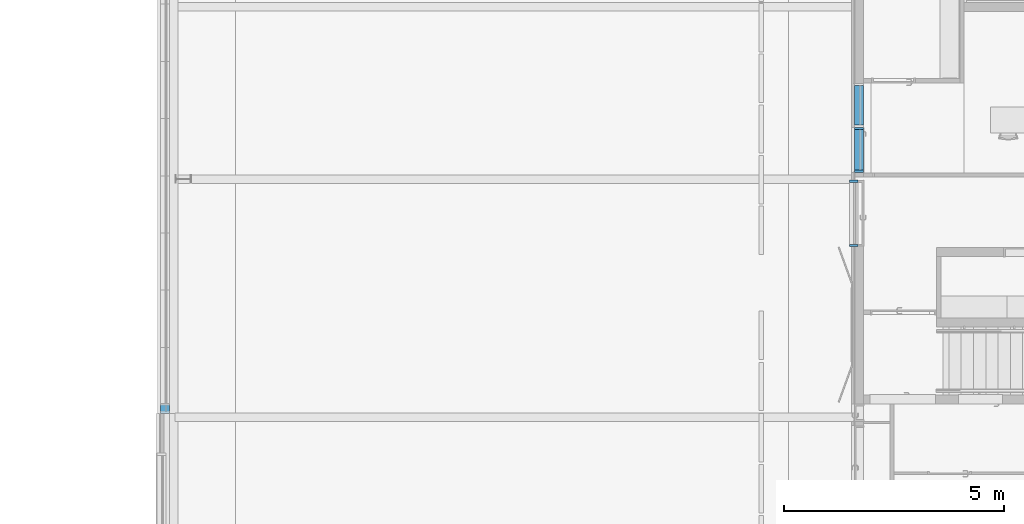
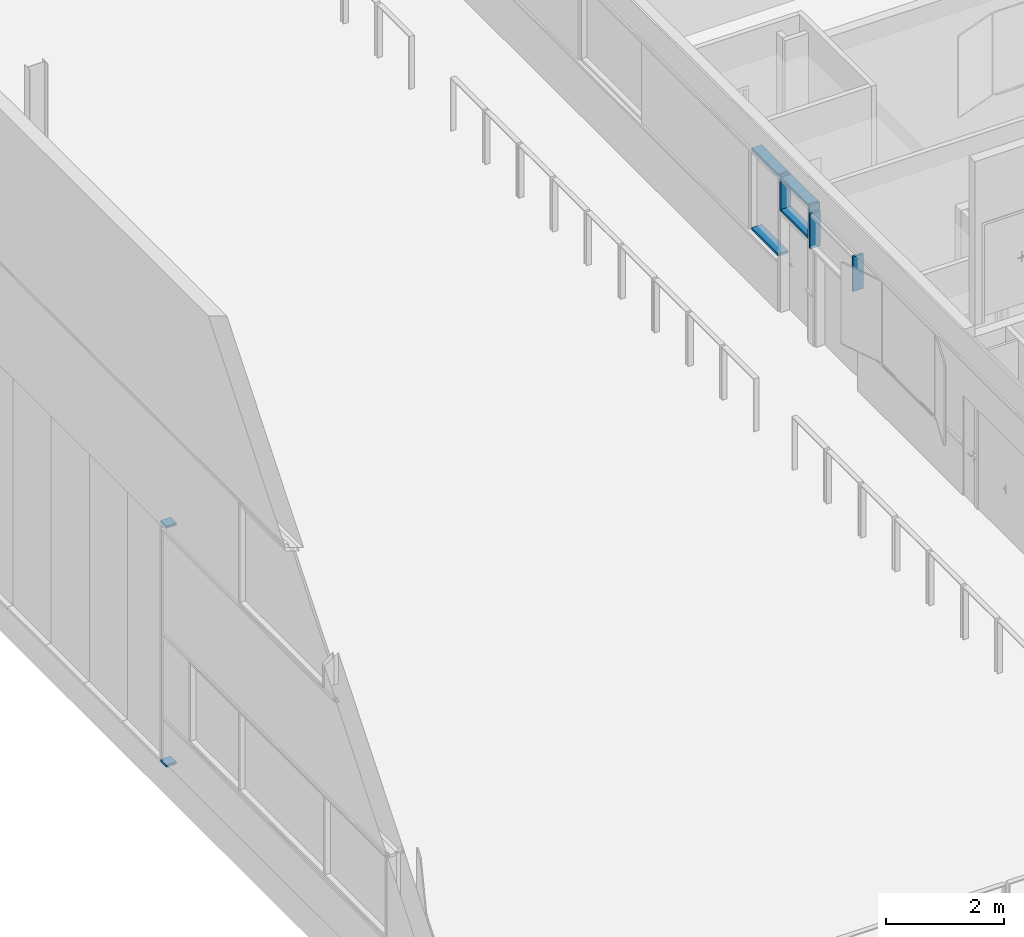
# One storey, part 24 of 137: 10 members, 4 elements without a shape of their own.
"""IFC2X3 building model written with IfcOpenShell, lengths in centimetres."""

from ifc_helpers import new_model, entity, si_unit, converted_unit, derived_unit, direction, frame, frame_2d, origin, origin_2d_with_axis, place, context, subcontext, project, spatial, rectangle, extrude, material, type_object, element, aggregate, save


model = new_model("IFC2X3")

# Units and contexts
model_context = context("Model", 3, precision=0.001, world=origin(), true_north=direction((6.12303176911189e-17, 1.0)))
body_context = subcontext(model_context, "Body", "Model", "MODEL_VIEW")
ifc_project = project(units=[si_unit("LENGTHUNIT", "METRE", prefix="CENTI"), si_unit("AREAUNIT", "SQUARE_METRE"), si_unit("VOLUMEUNIT", "CUBIC_METRE"), converted_unit("PLANEANGLEUNIT", "DEGREE", entity("IfcRatioMeasure", 0.0174532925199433), si_unit("PLANEANGLEUNIT", "RADIAN"), dimensions=[0, 0, 0, 0, 0, 0, 0]), si_unit("MASSUNIT", "GRAM", prefix="KILO"), si_unit("TIMEUNIT", "SECOND"), si_unit("FREQUENCYUNIT", "HERTZ"), si_unit("THERMODYNAMICTEMPERATUREUNIT", "DEGREE_CELSIUS"), derived_unit("THERMALTRANSMITTANCEUNIT", [(si_unit("MASSUNIT", "GRAM", prefix="KILO"), 1), (si_unit("THERMODYNAMICTEMPERATUREUNIT", "KELVIN"), -1), (si_unit("TIMEUNIT", "SECOND"), -3)]), derived_unit("VOLUMETRICFLOWRATEUNIT", [(si_unit("LENGTHUNIT", "METRE"), 3), (si_unit("TIMEUNIT", "SECOND"), -1)]), si_unit("ELECTRICCURRENTUNIT", "AMPERE"), si_unit("ELECTRICVOLTAGEUNIT", "VOLT"), si_unit("POWERUNIT", "WATT"), si_unit("FORCEUNIT", "NEWTON", prefix="KILO"), si_unit("ILLUMINANCEUNIT", "LUX"), si_unit("LUMINOUSFLUXUNIT", "LUMEN"), si_unit("LUMINOUSINTENSITYUNIT", "CANDELA"), derived_unit("USERDEFINED", [(si_unit("MASSUNIT", "GRAM", prefix="KILO"), -1), (si_unit("LENGTHUNIT", "METRE"), -2), (si_unit("TIMEUNIT", "SECOND"), 3), (si_unit("LUMINOUSFLUXUNIT", "LUMEN"), 1)]), derived_unit("LINEARVELOCITYUNIT", [(si_unit("LENGTHUNIT", "METRE"), 1), (si_unit("TIMEUNIT", "SECOND"), -1)]), si_unit("PRESSUREUNIT", "PASCAL"), derived_unit("USERDEFINED", [(si_unit("LENGTHUNIT", "METRE"), -2), (si_unit("MASSUNIT", "GRAM", prefix="KILO"), 1), (si_unit("TIMEUNIT", "SECOND"), -2)])], contexts=[model_context])

# Site, building, storey
site_placement = place(None, frame((8.62739174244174, -249.285249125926, 0.0)))
site = spatial("IfcSite", under=ifc_project, at=site_placement, Name="Default", CompositionType="ELEMENT")
building_placement = place(site_placement, origin())
building = spatial("IfcBuilding", under=site, at=building_placement, CompositionType="ELEMENT")
storey_placement = place(building_placement, origin())
storey = spatial("IfcBuildingStorey", under=building, at=storey_placement, Name="RDC", CompositionType="ELEMENT", Elevation=-8.82465566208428e-11)

# Curtain wall, members
curtain_wall_type = type_object("IfcCurtainWallType", Name="Mur-rideau:Simple panneau", PredefinedType="NOTDEFINED")
curtain_wall_1_placement = place(storey_placement, origin())
curtain_wall_1 = element("IfcCurtainWall", 1, at=curtain_wall_1_placement, inside=storey, type_object=curtain_wall_type, Name="Mur-rideau:Simple panneau", ObjectType="Mur-rideau:Simple panneau")
ifc_material = material(Name="Plastique, blanc opaque")
member_1_placement = place(curtain_wall_1_placement, origin())
member_1 = element("IfcMember", 2, at=member_1_placement, material=ifc_material, Name="Mur-rideau:Simple panneau", ObjectType="Mur-rideau:Simple panneau", context=body_context, shape_type="SweptSolid", body=[
    extrude(rectangle(XDim=4.99999999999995, YDim=20.0000000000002, at=frame_2d((0.0, 2.16715534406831e-13), x_axis=(1.0, 0.0))), frame((1466.9048277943, 4661.27522290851, 497.500000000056), z_axis=(0.0, 1.0, 0.0), x_axis=(0.0, 0.0, -1.0)), (0.0, 0.0, 1.0), 19.9999999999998),
])
member_2_placement = place(curtain_wall_1_placement, origin())
member_2 = element("IfcMember", 3, at=member_2_placement, material=ifc_material, Name="Mur-rideau:Simple panneau", ObjectType="Mur-rideau:Simple panneau", context=body_context, shape_type="SweptSolid", body=[
    extrude(rectangle(XDim=5.0, YDim=20.0000000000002, at=origin_2d_with_axis()), frame((1466.9048277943, 4681.27522290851, 2.50000000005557), z_axis=(0.0, -1.0, 0.0), x_axis=(0.0, 0.0, -1.0)), (0.0, 0.0, 1.0), 19.9999999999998),
])
aggregate(curtain_wall_1, [member_1, member_2])

curtain_wall_2_placement = place(storey_placement, origin())
curtain_wall_2 = element("IfcCurtainWall", 4, at=curtain_wall_2_placement, inside=storey, type_object=curtain_wall_type, Name="Mur-rideau:Simple panneau", ObjectType="Mur-rideau:Simple panneau")
member_3_placement = place(curtain_wall_2_placement, origin())
member_3 = element("IfcMember", 5, at=member_3_placement, material=ifc_material, Name="Mur-rideau:Simple panneau", ObjectType="Mur-rideau:Simple panneau", context=body_context, shape_type="SweptSolid", body=[
    extrude(rectangle(XDim=5.0, YDim=19.9999999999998, at=frame_2d((2.70894418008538e-14, 0.0), x_axis=(1.0, 0.0))), frame((3043.9048277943, 5406.23020813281, 277.500000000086), z_axis=(0.0, -1.0, 0.0), x_axis=(0.0, 0.0, -1.0)), (0.0, 0.0, 1.0), 90.0000000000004),
])
member_4_placement = place(curtain_wall_2_placement, origin())
member_4 = element("IfcMember", 6, at=member_4_placement, material=ifc_material, Name="Mur-rideau:Simple panneau", ObjectType="Mur-rideau:Simple panneau", context=body_context, shape_type="SweptSolid", body=[
    extrude(rectangle(XDim=5.0, YDim=19.9999999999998, at=origin_2d_with_axis()), frame((3043.9048277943, 5316.23020813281, 112.500000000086), z_axis=(0.0, 1.0, 0.0), x_axis=(0.0, 0.0, -1.0)), (0.0, 0.0, 1.0), 90.0000000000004),
])
aggregate(curtain_wall_2, [member_3, member_4])

curtain_wall_3_placement = place(storey_placement, origin())
curtain_wall_3 = element("IfcCurtainWall", 7, at=curtain_wall_3_placement, inside=storey, type_object=curtain_wall_type, Name="Mur-rideau:Simple panneau", ObjectType="Mur-rideau:Simple panneau")
member_5_placement = place(curtain_wall_3_placement, origin())
member_5 = element("IfcMember", 8, at=member_5_placement, material=ifc_material, Name="Mur-rideau:Simple panneau", ObjectType="Mur-rideau:Simple panneau", context=body_context, shape_type="SweptSolid", body=[
    extrude(rectangle(XDim=19.9999999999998, YDim=4.99999999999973, at=frame_2d((-4.33431068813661e-13, -4.33209024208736e-13), x_axis=(1.0, 0.0))), frame((3031.9048277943, 5188.73020813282, 280.0), z_axis=(0.0, 0.0, -1.0), x_axis=(-1.0, 0.0, 0.0)), (0.0, 0.0, 1.0), 71.9999999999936),
])
member_6_placement = place(curtain_wall_3_placement, origin())
member_6 = element("IfcMember", 9, at=member_6_placement, material=ifc_material, Name="Mur-rideau:Simple panneau", ObjectType="Mur-rideau:Simple panneau", context=body_context, shape_type="SweptSolid", body=[
    extrude(rectangle(XDim=19.9999999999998, YDim=4.99999999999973, at=frame_2d((0.0, -4.33209024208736e-13), x_axis=(1.0, 0.0))), frame((3031.9048277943, 5042.73020813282, 208.0), z_axis=(0.0, 0.0, 1.0), x_axis=(-1.0, 0.0, 0.0)), (0.0, 0.0, 1.0), 71.9999999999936),
])
aggregate(curtain_wall_3, [member_5, member_6])

curtain_wall_4_placement = place(storey_placement, origin())
curtain_wall_4 = element("IfcCurtainWall", 10, at=curtain_wall_4_placement, inside=storey, type_object=curtain_wall_type, Name="Mur-rideau:Simple panneau", ObjectType="Mur-rideau:Simple panneau")
member_7_placement = place(curtain_wall_4_placement, origin())
member_7 = element("IfcMember", 11, at=member_7_placement, material=ifc_material, Name="Mur-rideau:Simple panneau", ObjectType="Mur-rideau:Simple panneau", context=body_context, shape_type="SweptSolid", body=[
    extrude(rectangle(XDim=19.9999999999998, YDim=4.99999999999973, at=frame_2d((0.0, -4.33209024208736e-13), x_axis=(1.0, 0.0))), frame((3043.9048277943, 5308.73020813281, 280.0), z_axis=(0.0, 0.0, -1.0), x_axis=(-1.0, 0.0, 0.0)), (0.0, 0.0, 1.0), 71.9999999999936),
])
member_8_placement = place(curtain_wall_4_placement, origin())
member_8 = element("IfcMember", 12, at=member_8_placement, material=ifc_material, Name="Mur-rideau:Simple panneau", ObjectType="Mur-rideau:Simple panneau", context=body_context, shape_type="SweptSolid", body=[
    extrude(rectangle(XDim=5.0, YDim=19.9999999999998, at=frame_2d((2.70894418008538e-14, 0.0), x_axis=(1.0, 0.0))), frame((3043.9048277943, 5214.23020813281, 277.500000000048), z_axis=(0.0, 1.0, 0.0), x_axis=(0.0, 0.0, -1.0)), (0.0, 0.0, 1.0), 92.0),
])
member_9_placement = place(curtain_wall_4_placement, origin())
member_9 = element("IfcMember", 13, at=member_9_placement, material=ifc_material, Name="Mur-rideau:Simple panneau", ObjectType="Mur-rideau:Simple panneau", context=body_context, shape_type="SweptSolid", body=[
    extrude(rectangle(XDim=19.9999999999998, YDim=4.99999999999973, at=frame_2d((4.33431068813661e-13, -4.33209024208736e-13), x_axis=(1.0, 0.0))), frame((3043.9048277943, 5211.73020813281, 208.0), z_axis=(0.0, 0.0, 1.0), x_axis=(-1.0, 0.0, 0.0)), (0.0, 0.0, 1.0), 71.9999999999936),
])
member_10_placement = place(curtain_wall_4_placement, origin())
member_10 = element("IfcMember", 14, at=member_10_placement, material=ifc_material, Name="Mur-rideau:Simple panneau", ObjectType="Mur-rideau:Simple panneau", context=body_context, shape_type="SweptSolid", body=[
    extrude(rectangle(XDim=5.0, YDim=19.9999999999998, at=origin_2d_with_axis()), frame((3043.9048277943, 5306.23020813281, 210.500000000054), z_axis=(0.0, -1.0, 0.0), x_axis=(0.0, 0.0, -1.0)), (0.0, 0.0, 1.0), 91.9999999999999),
])
aggregate(curtain_wall_4, [member_7, member_8, member_9, member_10])

save(model, "model.ifc")
